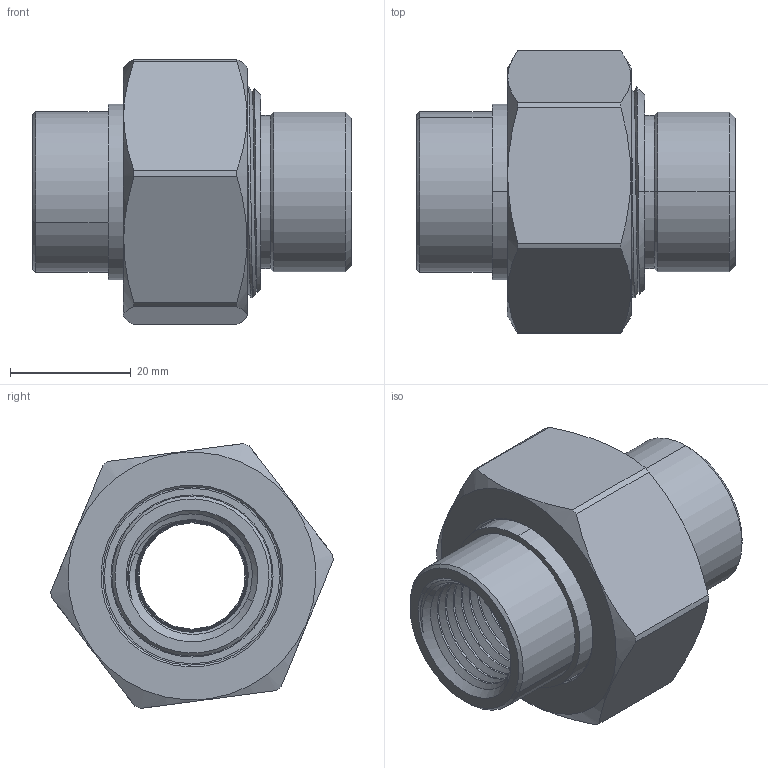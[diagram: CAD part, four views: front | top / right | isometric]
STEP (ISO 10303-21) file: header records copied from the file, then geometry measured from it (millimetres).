
FILE_DESCRIPTION (( 'STEP AP203' ), '1' );
FILE_NAME ('701-403.STEP', '2022-03-21T04:45:13', ( '' ), ( '' ), 'SwSTEP 2.0', 'SolidWorks 2012', '' );
FILE_SCHEMA (( 'CONFIG_CONTROL_DESIGN' ));
Length unit declared in the file: millimetre
Products named in the file (6): 0.5囀挴諉芛; 菜え; 鞠褒簽; 呿蹋杶; 沺囀挴諉芛; 701-403
Assembly tree (5 placements, depth 2):
  701-403
    0.5囀挴諉芛
    菜え
    鞠褒簽
    呿蹋杶
    沺囀挴諉芛
Bounding box: 52.7 x 46.71 x 43.82 mm (x, y, z)
Volume: 32692.3 mm3; surface area: 23411.9 mm2
Topology: 5 solids, 5 shells, 169 faces, 430 edges, 277 vertices
Faces by surface type: cone 72, cylinder 62, plane 25, bspline 8, torus 2
Entity records: 13407 total; most frequent: CARTESIAN_POINT 8998, ORIENTED_EDGE 860, DIRECTION 711, EDGE_CURVE 430, AXIS2_PLACEMENT_3D 282, VERTEX_POINT 277, EDGE_LOOP 185, FACE_OUTER_BOUND 169
